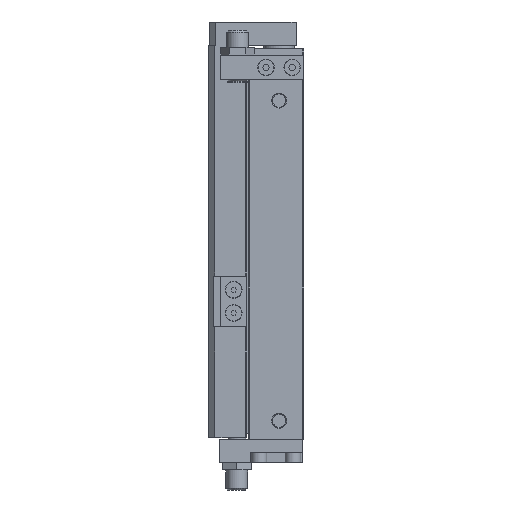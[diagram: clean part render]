
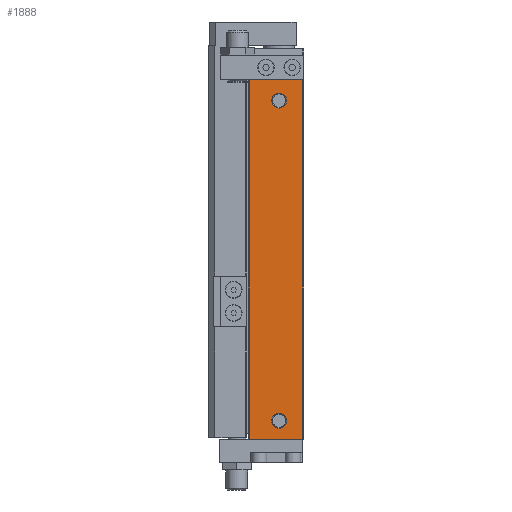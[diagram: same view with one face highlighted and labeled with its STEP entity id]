
A CAD part, left-side view. The second image highlights one B-rep face of the part: STEP entity #1888.
In plain terms, the highlighted planar face has unit normal (-1, 0, 0).
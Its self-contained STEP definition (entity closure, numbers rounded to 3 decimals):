
#1888 = ADVANCED_FACE( '', ( #4045, #4046, #4047 ), #4048, .T. );
#4045 = FACE_BOUND( '', #6306, .T. );
#4046 = FACE_BOUND( '', #6307, .T. );
#4047 = FACE_OUTER_BOUND( '', #6308, .T. );
#4048 = PLANE( '', #6309 );
#6306 = EDGE_LOOP( '', ( #11259 ) );
#6307 = EDGE_LOOP( '', ( #11260 ) );
#6308 = EDGE_LOOP( '', ( #11261, #11262, #11263, #11264 ) );
#6309 = AXIS2_PLACEMENT_3D( '', #11265, #11266, #11267 );
#11259 = ORIENTED_EDGE( '', *, *, #13988, .T. );
#11260 = ORIENTED_EDGE( '', *, *, #12148, .T. );
#11261 = ORIENTED_EDGE( '', *, *, #13989, .T. );
#11262 = ORIENTED_EDGE( '', *, *, #13244, .F. );
#11263 = ORIENTED_EDGE( '', *, *, #12084, .F. );
#11264 = ORIENTED_EDGE( '', *, *, #13192, .T. );
#11265 = CARTESIAN_POINT( '', ( -43., 35.505, -253.5 ) );
#11266 = DIRECTION( '', ( -1., 0., 0. ) );
#11267 = DIRECTION( '', ( 0., 0., 1. ) );
#12084 = EDGE_CURVE( '', #14164, #14165, #14166, .T. );
#12148 = EDGE_CURVE( '', #14280, #14280, #14281, .T. );
#13192 = EDGE_CURVE( '', #14164, #16000, #16002, .T. );
#13244 = EDGE_CURVE( '', #14165, #16077, #16078, .T. );
#13988 = EDGE_CURVE( '', #17054, #17054, #17055, .T. );
#13989 = EDGE_CURVE( '', #16000, #16077, #17056, .T. );
#14164 = VERTEX_POINT( '', #17252 );
#14165 = VERTEX_POINT( '', #17253 );
#14166 = LINE( '', #17254, #17255 );
#14280 = VERTEX_POINT( '', #17408 );
#14281 = CIRCLE( '', #17409, 4.864 );
#16000 = VERTEX_POINT( '', #19741 );
#16002 = LINE( '', #19744, #19745 );
#16077 = VERTEX_POINT( '', #19845 );
#16078 = LINE( '', #19846, #19847 );
#17054 = VERTEX_POINT( '', #21185 );
#17055 = CIRCLE( '', #21186, 4.864 );
#17056 = LINE( '', #21187, #21188 );
#17252 = CARTESIAN_POINT( '', ( -43., 35.505, -253.5 ) );
#17253 = CARTESIAN_POINT( '', ( -43., 35.505, -20. ) );
#17254 = CARTESIAN_POINT( '', ( -43., 35.505, -253.5 ) );
#17255 = VECTOR( '', #21370, 1000. );
#17408 = CARTESIAN_POINT( '', ( -43., 16., -38.364 ) );
#17409 = AXIS2_PLACEMENT_3D( '', #21446, #21447, #21448 );
#19741 = CARTESIAN_POINT( '', ( -43., 0.495, -253.5 ) );
#19744 = CARTESIAN_POINT( '', ( -43., 35.505, -253.5 ) );
#19745 = VECTOR( '', #22624, 1000. );
#19845 = CARTESIAN_POINT( '', ( -43., 0.495, -20. ) );
#19846 = CARTESIAN_POINT( '', ( -43., 36., -20. ) );
#19847 = VECTOR( '', #22680, 1000. );
#21185 = CARTESIAN_POINT( '', ( -43., 16., -246.364 ) );
#21186 = AXIS2_PLACEMENT_3D( '', #23349, #23350, #23351 );
#21187 = CARTESIAN_POINT( '', ( -43., 0.495, -253.5 ) );
#21188 = VECTOR( '', #23352, 1000. );
#21370 = DIRECTION( '', ( 0., 0., 1. ) );
#21446 = CARTESIAN_POINT( '', ( -43., 16., -33.5 ) );
#21447 = DIRECTION( '', ( 1., 0., 0. ) );
#21448 = DIRECTION( '', ( 0., 0., -1. ) );
#22624 = DIRECTION( '', ( 0., -1., 0. ) );
#22680 = DIRECTION( '', ( 0., -1., 0. ) );
#23349 = CARTESIAN_POINT( '', ( -43., 16., -241.5 ) );
#23350 = DIRECTION( '', ( 1., 0., 0. ) );
#23351 = DIRECTION( '', ( 0., 0., -1. ) );
#23352 = DIRECTION( '', ( 0., 0., 1. ) );
